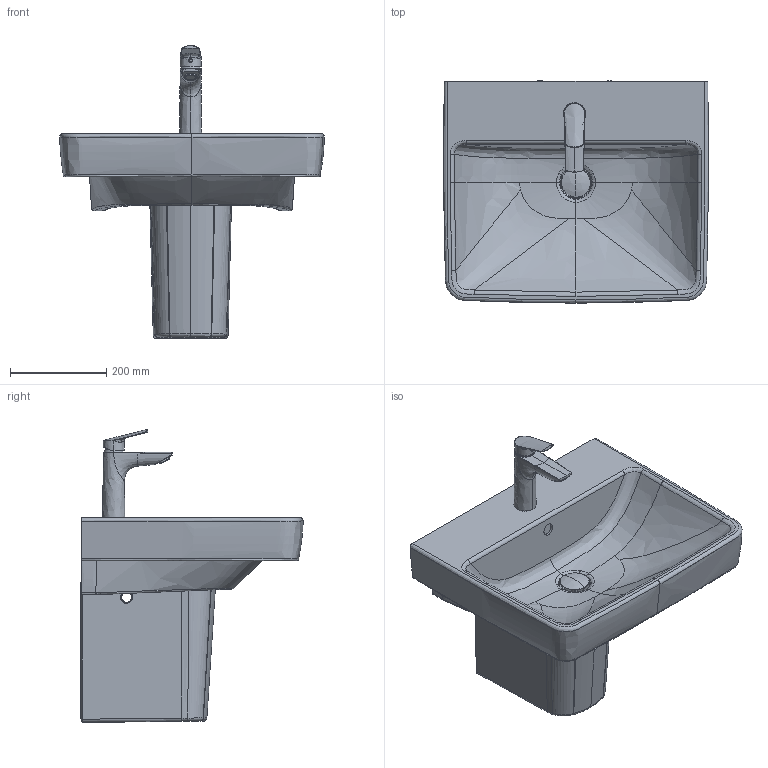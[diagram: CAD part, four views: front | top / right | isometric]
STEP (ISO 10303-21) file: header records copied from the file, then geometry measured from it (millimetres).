
FILE_DESCRIPTION(/* description */ (''),/* implementation_level */ '2;1');
FILE_NAME(/* name */ '237555_085845',/* time_stamp */ '2021-10-12T13:30:59+02:00',/* author */ (''),/* organization */ (''),/* preprocessor_version */ 'ST-DEVELOPER v15',/* originating_system */ '',/* authorisation */ '');
FILE_SCHEMA (('AUTOMOTIVE_DESIGN'));
Length unit declared in the file: millimetre
Products named in the file (1): Document
Bounding box: 549.87 x 461.56 x 607.93 mm (x, y, z)
Volume: 14163154.9 mm3; surface area: 1443148.1 mm2
Topology: 7 solids, 10 shells, 568 faces, 1369 edges, 825 vertices
Faces by surface type: bspline 485, plane 83
Entity records: 109977 total; most frequent: CARTESIAN_POINT 101655, ORIENTED_EDGE 2714, EDGE_CURVE 1366, B_SPLINE_CURVE_WITH_KNOTS 1074, VERTEX_POINT 825, EDGE_LOOP 597, ADVANCED_FACE 567, FACE_OUTER_BOUND 567
